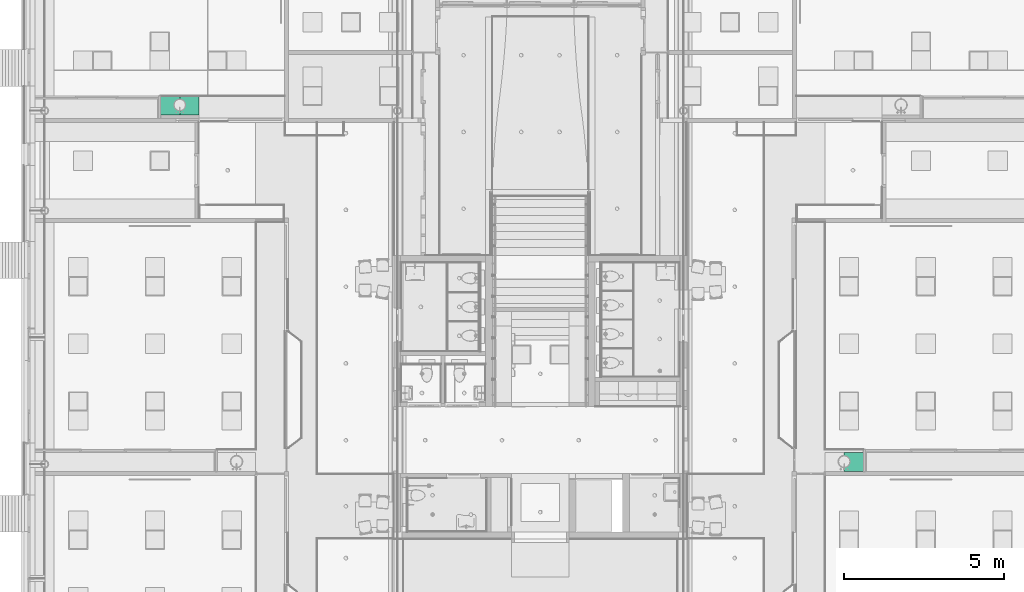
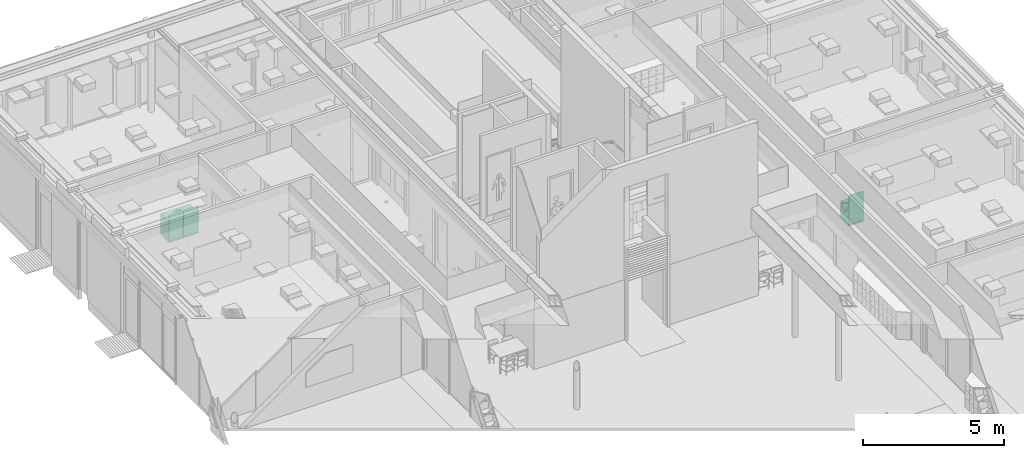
# One storey, part 307 of 347: 3 distribution elements.
"""IFC2X3 building model written with IfcOpenShell, lengths in millimetres."""

from ifc_helpers import new_model, entity, si_unit, converted_unit, derived_unit, money_unit, direction, frame, origin_with_axes, place, context, subcontext, project, spatial, faceted_brep, type_object, element, save


model = new_model("IFC2X3")

# Units and contexts
model_context = context("Model", 3, precision=0.01, world=origin_with_axes(), true_north=direction((0.0, 1.0)))
plan_context = context("Plan", 3, precision=0.01, world=origin_with_axes(), true_north=direction((0.0, 1.0)))
body_context = subcontext(model_context, "Body", "Model", "MODEL_VIEW")
ifc_project = project(units=[si_unit("LENGTHUNIT", "METRE", prefix="MILLI"), si_unit("AREAUNIT", "SQUARE_METRE"), si_unit("VOLUMEUNIT", "CUBIC_METRE"), converted_unit("PLANEANGLEUNIT", "DEGREE", entity("IfcPlaneAngleMeasure", 0.0174532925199), si_unit("PLANEANGLEUNIT", "RADIAN"), dimensions=[0, 0, 0, 0, 0, 0, 0]), money_unit("EUR"), converted_unit("TIMEUNIT", "Year", entity("IfcTimeMeasure", 31556926.0), si_unit("TIMEUNIT", "SECOND"), dimensions=[0, 0, 1, 0, 0, 0, 0]), si_unit("MASSUNIT", "GRAM", prefix="KILO"), si_unit("THERMODYNAMICTEMPERATUREUNIT", "DEGREE_CELSIUS"), si_unit("LUMINOUSINTENSITYUNIT", "LUMEN"), si_unit("ENERGYUNIT", "JOULE", prefix="MEGA"), derived_unit("THERMALCONDUCTANCEUNIT", [(si_unit("POWERUNIT", "WATT"), 1), (si_unit("LENGTHUNIT", "METRE"), -1), (si_unit("THERMODYNAMICTEMPERATUREUNIT", "KELVIN"), -1)]), derived_unit("SPECIFICHEATCAPACITYUNIT", [(si_unit("ENERGYUNIT", "JOULE"), 1), (si_unit("MASSUNIT", "GRAM", prefix="KILO"), -1), (si_unit("THERMODYNAMICTEMPERATUREUNIT", "KELVIN"), -1)]), derived_unit("MASSDENSITYUNIT", [(si_unit("MASSUNIT", "GRAM", prefix="KILO"), 1), (si_unit("VOLUMEUNIT", "CUBIC_METRE"), -1)])], contexts=[model_context, plan_context])

# Site, building, storey
site_placement = place(None, origin_with_axes())
site = spatial("IfcSite", under=ifc_project, at=site_placement, Name="Site", CompositionType="ELEMENT")
building_placement = place(site_placement, origin_with_axes())
building = spatial("IfcBuilding", under=site, at=building_placement, Name="Naam gebouw", CompositionType="ELEMENT")
storey_placement = place(building_placement, origin_with_axes())
storey = spatial("IfcBuildingStorey", under=building, at=storey_placement, Name="begane grond", CompositionType="ELEMENT", Elevation=0.0)

# Distribution elements
distribution_element_type = type_object("IfcDistributionElementType", Name="Onderkast recht 25")
distribution_element_1_placement = place(storey_placement, frame((28800.0, 39187.5, 0.0), z_axis=(0.0, 0.0, 1.0), x_axis=(-1.0, 0.0, 0.0)))
element("IfcDistributionElement", 1, at=distribution_element_1_placement, inside=storey, type_object=distribution_element_type, Name="65 Beveiliging_82 pantryblok", context=body_context, shape_type="Brep", body=[
    faceted_brep([(-127.279220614, -444.012913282, 910.0), (-166.298315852, -385.616710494, 910.0), (-180.0, -316.733692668, 910.0), (-166.298315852, -247.850674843, 910.0), (-127.279220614, -189.454472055, 910.0), (-68.8830178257, -150.435376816, 910.0), (0.0, -136.733692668, 910.0), (0.0, 0.0, 910.0), (-600.0, 0.0, 910.0), (-600.0, -600.0, 910.0), (0.0, -600.0, 910.0), (0.0, -496.733692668, 910.0), (-68.8830178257, -483.03200852, 910.0), (-127.279220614, -444.012913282, 870.0), (-166.298315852, -385.616710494, 870.0), (-180.0, -316.733692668, 870.0), (-166.298315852, -247.850674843, 870.0), (-127.279220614, -189.454472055, 870.0), (-68.8830178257, -150.435376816, 870.0), (0.0, -136.733692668, 870.0), (0.0, 0.0, 870.0), (-600.0, 0.0, 870.0), (-600.0, -600.0, 870.0), (0.0, -600.0, 870.0), (0.0, -496.733692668, 870.0), (-68.8830178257, -483.03200852, 870.0)], [[[0, 1, 2, 3, 4, 5, 6, 7, 8, 9, 10, 11, 12]], [[1, 0, 13, 14]], [[2, 1, 14, 15]], [[3, 2, 15, 16]], [[4, 3, 16, 17]], [[5, 4, 17, 18]], [[6, 5, 18, 19]], [[6, 19, 20, 7]], [[20, 21, 8, 7]], [[21, 22, 9, 8]], [[22, 23, 10, 9]], [[24, 11, 10, 23]], [[12, 11, 24, 25]], [[0, 12, 25, 13]], [[25, 24, 23, 22, 21, 20, 19, 18, 17, 16, 15, 14, 13]]]),
    faceted_brep([(-18.0, -512.0, 852.0), (-18.0, -572.0, 852.0), (-582.0, -572.0, 852.0), (-582.0, -512.0, 852.0), (-18.0, -572.0, 870.0), (-18.0, -512.0, 870.0), (-582.0, -572.0, 870.0), (-582.0, -512.0, 870.0)], [[[0, 1, 2, 3]], [[4, 1, 0, 5]], [[1, 4, 6, 2]], [[3, 2, 6, 7]], [[5, 0, 3, 7]], [[4, 5, 7, 6]]]),
    faceted_brep([(-18.0, -9.0, 68.0), (-582.0, -9.00000000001, 68.0), (-582.0, -9.00000000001, 852.0), (-18.0, -9.0, 852.0), (-582.0, -18.0, 68.0), (-18.0, -18.0, 68.0), (-582.0, -18.0, 852.0), (-18.0, -18.0, 852.0)], [[[0, 1, 2, 3]], [[4, 1, 0, 5]], [[1, 4, 6, 2]], [[3, 2, 6, 7]], [[5, 0, 3, 7]], [[4, 5, 7, 6]]]),
    faceted_brep([(-582.0, -60.0, 852.0), (-582.0, 0.0, 852.0), (-18.0, 0.0, 852.0), (-18.0, -60.0, 852.0), (-582.0, 0.0, 870.0), (-582.0, -60.0, 870.0), (-18.0, 0.0, 870.0), (-18.0, -60.0, 870.0)], [[[0, 1, 2, 3]], [[4, 1, 0, 5]], [[1, 4, 6, 2]], [[3, 2, 6, 7]], [[5, 0, 3, 7]], [[4, 5, 7, 6]]]),
    faceted_brep([(-14.8492424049, -201.884450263, 710.0), (-18.0, -205.990597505, 710.0), (-18.0, -205.990597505, 690.0), (-14.8492424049, -201.884450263, 690.0), (-18.0, -140.314115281, 710.0), (-10.5, -198.547159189, 710.0), (-5.43519994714, -196.449250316, 710.0), (0.0, -195.733692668, 710.0), (0.0, -136.733692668, 710.0), (-18.0, -493.153270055, 710.0), (-18.0, -227.476787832, 710.0), (-18.0, -227.476787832, 690.0), (-18.0, -140.314115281, 870.0), (-18.0, 0.0, 870.0), (-18.0, 0.0, 50.0), (-18.0, -572.0, 50.0), (-18.0, -572.0, 870.0), (-18.0, -493.153270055, 870.0), (-14.8492424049, -231.582935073, 690.0), (-10.5, -234.920226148, 690.0), (-5.43519994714, -237.01813502, 690.0), (0.0, -237.733692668, 690.0), (0.0, -195.733692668, 690.0), (-5.43519994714, -196.449250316, 690.0), (-10.5, -198.547159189, 690.0), (0.0, -496.733692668, 710.0), (0.0, -496.733692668, 870.0), (0.0, -572.0, 870.0), (0.0, -572.0, 50.0), (0.0, 0.0, 50.0), (0.0, 0.0, 870.0), (0.0, -136.733692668, 870.0), (0.0, -237.733692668, 710.0), (-5.43519994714, -237.01813502, 710.0), (-10.5, -234.920226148, 710.0), (-14.8492424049, -231.582935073, 710.0)], [[[0, 1, 2, 3]], [[4, 1, 0, 5, 6, 7, 8]], [[9, 10, 11, 2, 1, 4, 12, 13, 14, 15, 16, 17]], [[2, 11, 18, 19, 20, 21, 22, 23, 24, 3]], [[5, 0, 3, 24]], [[6, 5, 24, 23]], [[7, 6, 23, 22]], [[25, 26, 27, 28, 29, 30, 31, 8, 7, 22, 21, 32]], [[31, 12, 4, 8]], [[10, 9, 25, 32, 33, 34, 35]], [[10, 35, 18, 11]], [[12, 31, 30, 13]], [[29, 14, 13, 30]], [[14, 29, 28, 15]], [[15, 28, 27, 16]], [[26, 17, 16, 27]], [[9, 17, 26, 25]], [[35, 34, 19, 18]], [[34, 33, 20, 19]], [[33, 32, 21, 20]]]),
    faceted_brep([(-600.0, 0.0, 50.0), (-600.0, -572.0, 50.0), (-600.0, -572.0, 870.0), (-600.0, 0.0, 870.0), (-582.0, -572.0, 50.0), (-582.0, 0.0, 50.0), (-582.0, -572.0, 870.0), (-582.0, 0.0, 870.0)], [[[0, 1, 2, 3]], [[4, 1, 0, 5]], [[1, 4, 6, 2]], [[3, 2, 6, 7]], [[5, 0, 3, 7]], [[4, 5, 7, 6]]]),
    faceted_brep([(-600.0, 0.0, 910.0), (0.0, 0.0, 910.0), (0.0, -6.0, 910.0), (-600.0, -6.00000000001, 910.0), (-600.0, 0.0, 1200.0), (0.0, 0.0, 1200.0), (0.0, -6.0, 1200.0), (-600.0, -6.00000000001, 1200.0)], [[[0, 1, 2, 3]], [[4, 5, 1, 0]], [[1, 5, 6, 2]], [[3, 2, 6, 7]], [[0, 3, 7, 4]], [[7, 6, 5, 4]]]),
    faceted_brep([(-96.0, -590.0, 386.0), (-106.0, -590.0, 386.0), (-106.0, -590.0, 396.0), (-96.0, -590.0, 396.0), (-96.0, -600.0, 386.0), (-106.0, -600.0, 386.0), (-106.0, -603.472963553, 386.30384494), (-106.0, -606.840402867, 387.206147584), (-106.0, -610.0, 388.679491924), (-106.0, -612.855752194, 390.679111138), (-106.0, -615.320888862, 393.144247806), (-106.0, -617.320508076, 396.0), (-106.0, -618.793852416, 399.159597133), (-106.0, -619.69615506, 402.527036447), (-106.0, -620.0, 406.0), (-106.0, -620.0, 516.0), (-106.0, -619.69615506, 519.472963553), (-106.0, -618.793852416, 522.840402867), (-106.0, -617.320508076, 526.0), (-106.0, -615.320888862, 528.855752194), (-106.0, -612.855752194, 531.320888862), (-106.0, -610.0, 533.320508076), (-106.0, -606.840402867, 534.793852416), (-106.0, -603.472963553, 535.69615506), (-106.0, -600.0, 536.0), (-106.0, -590.0, 536.0), (-106.0, -590.0, 526.0), (-106.0, -600.0, 526.0), (-106.0, -601.736481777, 525.84807753), (-106.0, -603.420201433, 525.396926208), (-106.0, -605.0, 524.660254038), (-106.0, -606.427876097, 523.660444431), (-106.0, -607.660444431, 522.427876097), (-106.0, -608.660254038, 521.0), (-106.0, -609.396926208, 519.420201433), (-106.0, -609.84807753, 517.736481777), (-106.0, -610.0, 516.0), (-106.0, -610.0, 406.0), (-106.0, -609.84807753, 404.263518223), (-106.0, -609.396926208, 402.579798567), (-106.0, -608.660254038, 401.0), (-106.0, -607.660444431, 399.572123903), (-106.0, -606.427876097, 398.339555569), (-106.0, -605.0, 397.339745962), (-106.0, -603.420201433, 396.603073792), (-106.0, -601.736481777, 396.15192247), (-106.0, -600.0, 396.0), (-96.0, -600.0, 396.0), (-96.0, -601.736481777, 396.15192247), (-96.0, -603.420201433, 396.603073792), (-96.0, -605.0, 397.339745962), (-96.0, -606.427876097, 398.339555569), (-96.0, -607.660444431, 399.572123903), (-96.0, -608.660254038, 401.0), (-96.0, -609.396926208, 402.579798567), (-96.0, -609.84807753, 404.263518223), (-96.0, -610.0, 406.0), (-96.0, -610.0, 516.0), (-96.0, -609.84807753, 517.736481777), (-96.0, -609.396926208, 519.420201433), (-96.0, -608.660254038, 521.0), (-96.0, -607.660444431, 522.427876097), (-96.0, -606.427876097, 523.660444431), (-96.0, -605.0, 524.660254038), (-96.0, -603.420201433, 525.396926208), (-96.0, -601.736481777, 525.84807753), (-96.0, -600.0, 526.0), (-96.0, -590.0, 526.0), (-96.0, -590.0, 536.0), (-96.0, -600.0, 536.0), (-96.0, -603.472963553, 535.69615506), (-96.0, -606.840402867, 534.793852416), (-96.0, -610.0, 533.320508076), (-96.0, -612.855752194, 531.320888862), (-96.0, -615.320888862, 528.855752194), (-96.0, -617.320508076, 526.0), (-96.0, -618.793852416, 522.840402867), (-96.0, -619.69615506, 519.472963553), (-96.0, -620.0, 516.0), (-96.0, -620.0, 406.0), (-96.0, -619.69615506, 402.527036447), (-96.0, -618.793852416, 399.159597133), (-96.0, -617.320508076, 396.0), (-96.0, -615.320888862, 393.144247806), (-96.0, -612.855752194, 390.679111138), (-96.0, -610.0, 388.679491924), (-96.0, -606.840402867, 387.206147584), (-96.0, -603.472963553, 386.30384494)], [[[0, 1, 2, 3]], [[4, 5, 1, 0]], [[1, 5, 6, 7, 8, 9, 10, 11, 12, 13, 14, 15, 16, 17, 18, 19, 20, 21, 22, 23, 24, 25, 26, 27, 28, 29, 30, 31, 32, 33, 34, 35, 36, 37, 38, 39, 40, 41, 42, 43, 44, 45, 46, 2]], [[3, 2, 46, 47]], [[0, 3, 47, 48, 49, 50, 51, 52, 53, 54, 55, 56, 57, 58, 59, 60, 61, 62, 63, 64, 65, 66, 67, 68, 69, 70, 71, 72, 73, 74, 75, 76, 77, 78, 79, 80, 81, 82, 83, 84, 85, 86, 87, 4]], [[87, 6, 5, 4]], [[86, 7, 6, 87]], [[85, 8, 7, 86]], [[84, 9, 8, 85]], [[83, 10, 9, 84]], [[82, 11, 10, 83]], [[81, 12, 11, 82]], [[80, 13, 12, 81]], [[79, 14, 13, 80]], [[78, 15, 14, 79]], [[77, 16, 15, 78]], [[76, 17, 16, 77]], [[75, 18, 17, 76]], [[74, 19, 18, 75]], [[73, 20, 19, 74]], [[72, 21, 20, 73]], [[71, 22, 21, 72]], [[70, 23, 22, 71]], [[69, 24, 23, 70]], [[68, 25, 24, 69]], [[67, 26, 25, 68]], [[66, 27, 26, 67]], [[65, 28, 27, 66]], [[64, 29, 28, 65]], [[63, 30, 29, 64]], [[62, 31, 30, 63]], [[61, 32, 31, 62]], [[60, 33, 32, 61]], [[59, 34, 33, 60]], [[58, 35, 34, 59]], [[57, 36, 35, 58]], [[56, 37, 36, 57]], [[55, 38, 37, 56]], [[54, 39, 38, 55]], [[53, 40, 39, 54]], [[52, 41, 40, 53]], [[51, 42, 41, 52]], [[50, 43, 42, 51]], [[49, 44, 43, 50]], [[48, 45, 44, 49]], [[47, 46, 45, 48]]]),
    faceted_brep([(-1.0, -572.0, 51.0), (-1.0, -590.0, 51.0), (-599.0, -590.0, 51.0), (-599.0, -572.0, 51.0), (-1.0, -572.0, 869.0), (-1.0, -590.0, 869.0), (-599.0, -590.0, 869.0), (-599.0, -572.0, 869.0)], [[[0, 1, 2, 3]], [[4, 5, 1, 0]], [[1, 5, 6, 2]], [[3, 2, 6, 7]], [[0, 3, 7, 4]], [[7, 6, 5, 4]]]),
    faceted_brep([(-18.0, -572.0, 50.0), (-18.0, -572.0, 68.0), (-582.0, -572.0, 68.0), (-582.0, -572.0, 50.0), (-18.0, 0.0, 50.0), (-18.0, 0.0, 68.0), (-582.0, 0.0, 68.0), (-582.0, 0.0, 50.0)], [[[0, 1, 2, 3]], [[4, 5, 1, 0]], [[1, 5, 6, 2]], [[3, 2, 6, 7]], [[0, 3, 7, 4]], [[7, 6, 5, 4]]]),
    faceted_brep([(0.0, -482.0, 0.0), (0.0, -482.0, 50.0), (-600.0, -482.0, 50.0), (-600.0, -482.0, 0.0), (0.0, 0.0, 0.0), (0.0, 0.0, 50.0), (-600.0, 0.0, 50.0), (-600.0, 0.0, 0.0)], [[[0, 1, 2, 3]], [[4, 5, 1, 0]], [[1, 5, 6, 2]], [[3, 2, 6, 7]], [[0, 3, 7, 4]], [[7, 6, 5, 4]]]),
])
distribution_element_2_placement = place(storey_placement, frame((28200.0, 39187.5, 0.0), z_axis=(0.0, 0.0, 1.0), x_axis=(-1.0, 0.0, 0.0)))
element("IfcDistributionElement", 2, at=distribution_element_2_placement, inside=storey, type_object=distribution_element_type, Name="65 Beveiliging_82 pantryblok", context=body_context, shape_type="Brep", body=[
    faceted_brep([(-472.720779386, -444.012913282, 910.0), (-531.116982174, -483.03200852, 910.0), (-600.0, -496.733692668, 910.0), (-600.0, -600.0, 910.0), (0.0, -600.0, 910.0), (0.0, 0.0, 910.0), (-600.0, 0.0, 910.0), (-600.0, -136.733692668, 910.0), (-531.116982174, -150.435376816, 910.0), (-472.720779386, -189.454472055, 910.0), (-433.701684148, -247.850674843, 910.0), (-420.0, -316.733692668, 910.0), (-433.701684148, -385.616710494, 910.0), (-472.720779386, -444.012913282, 870.0), (-531.116982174, -483.03200852, 870.0), (-600.0, -496.733692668, 870.0), (-600.0, -600.0, 870.0), (0.0, -600.0, 870.0), (0.0, 0.0, 870.0), (-600.0, 0.0, 870.0), (-600.0, -136.733692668, 870.0), (-531.116982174, -150.435376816, 870.0), (-472.720779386, -189.454472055, 870.0), (-433.701684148, -247.850674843, 870.0), (-420.0, -316.733692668, 870.0), (-433.701684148, -385.616710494, 870.0)], [[[0, 1, 2, 3, 4, 5, 6, 7, 8, 9, 10, 11, 12]], [[1, 0, 13, 14]], [[2, 1, 14, 15]], [[2, 15, 16, 3]], [[16, 17, 4, 3]], [[17, 18, 5, 4]], [[18, 19, 6, 5]], [[20, 7, 6, 19]], [[8, 7, 20, 21]], [[9, 8, 21, 22]], [[10, 9, 22, 23]], [[11, 10, 23, 24]], [[12, 11, 24, 25]], [[0, 12, 25, 13]], [[21, 20, 19, 18, 17, 16, 15, 14, 13, 25, 24, 23, 22]]]),
    faceted_brep([(-18.0, -512.0, 852.0), (-18.0, -572.0, 852.0), (-582.0, -572.0, 852.0), (-582.0, -512.0, 852.0), (-18.0, -572.0, 870.0), (-18.0, -512.0, 870.0), (-582.0, -572.0, 870.0), (-582.0, -512.0, 870.0)], [[[0, 1, 2, 3]], [[4, 1, 0, 5]], [[1, 4, 6, 2]], [[3, 2, 6, 7]], [[5, 0, 3, 7]], [[4, 5, 7, 6]]]),
    faceted_brep([(-18.0, -9.0, 68.0), (-582.0, -9.0, 68.0), (-582.0, -9.0, 852.0), (-18.0, -9.0, 852.0), (-582.0, -18.0, 68.0), (-18.0, -18.0, 68.0), (-582.0, -18.0, 852.0), (-18.0, -18.0, 852.0)], [[[0, 1, 2, 3]], [[4, 1, 0, 5]], [[1, 4, 6, 2]], [[3, 2, 6, 7]], [[5, 0, 3, 7]], [[4, 5, 7, 6]]]),
    faceted_brep([(-582.0, -60.0, 852.0), (-582.0, 0.0, 852.0), (-18.0, 0.0, 852.0), (-18.0, -60.0, 852.0), (-582.0, 0.0, 870.0), (-582.0, -60.0, 870.0), (-18.0, 0.0, 870.0), (-18.0, -60.0, 870.0)], [[[0, 1, 2, 3]], [[4, 1, 0, 5]], [[1, 4, 6, 2]], [[3, 2, 6, 7]], [[5, 0, 3, 7]], [[4, 5, 7, 6]]]),
    faceted_brep([(0.0, -572.0, 50.0), (0.0, 0.0, 50.0), (0.0, 0.0, 870.0), (0.0, -572.0, 870.0), (-18.0, 0.0, 50.0), (-18.0, -572.0, 50.0), (-18.0, 0.0, 870.0), (-18.0, -572.0, 870.0)], [[[0, 1, 2, 3]], [[4, 1, 0, 5]], [[1, 4, 6, 2]], [[3, 2, 6, 7]], [[5, 0, 3, 7]], [[4, 5, 7, 6]]]),
    faceted_brep([(-594.564800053, -196.449250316, 710.0), (-600.0, -195.733692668, 710.0), (-600.0, -195.733692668, 690.0), (-594.564800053, -196.449250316, 690.0), (-600.0, -136.733692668, 710.0), (-589.5, -198.547159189, 710.0), (-585.150757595, -201.884450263, 710.0), (-582.0, -205.990597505, 710.0), (-582.0, -140.314115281, 710.0), (-600.0, -496.733692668, 710.0), (-600.0, -237.733692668, 710.0), (-600.0, -237.733692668, 690.0), (-600.0, -136.733692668, 870.0), (-600.0, 0.0, 870.0), (-600.0, 0.0, 50.0), (-600.0, -572.0, 50.0), (-600.0, -572.0, 870.0), (-600.0, -496.733692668, 870.0), (-594.564800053, -237.01813502, 690.0), (-589.5, -234.920226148, 690.0), (-585.150757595, -231.582935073, 690.0), (-582.0, -227.476787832, 690.0), (-582.0, -205.990597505, 690.0), (-585.150757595, -201.884450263, 690.0), (-589.5, -198.547159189, 690.0), (-582.0, -493.153270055, 710.0), (-582.0, -493.153270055, 870.0), (-582.0, -572.0, 870.0), (-582.0, -572.0, 50.0), (-582.0, 0.0, 50.0), (-582.0, 0.0, 870.0), (-582.0, -140.314115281, 870.0), (-582.0, -227.476787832, 710.0), (-585.150757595, -231.582935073, 710.0), (-589.5, -234.920226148, 710.0), (-594.564800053, -237.01813502, 710.0)], [[[0, 1, 2, 3]], [[4, 1, 0, 5, 6, 7, 8]], [[9, 10, 11, 2, 1, 4, 12, 13, 14, 15, 16, 17]], [[2, 11, 18, 19, 20, 21, 22, 23, 24, 3]], [[5, 0, 3, 24]], [[6, 5, 24, 23]], [[7, 6, 23, 22]], [[25, 26, 27, 28, 29, 30, 31, 8, 7, 22, 21, 32]], [[31, 12, 4, 8]], [[10, 9, 25, 32, 33, 34, 35]], [[10, 35, 18, 11]], [[12, 31, 30, 13]], [[29, 14, 13, 30]], [[28, 15, 14, 29]], [[15, 28, 27, 16]], [[26, 17, 16, 27]], [[17, 26, 25, 9]], [[35, 34, 19, 18]], [[34, 33, 20, 19]], [[33, 32, 21, 20]]]),
    faceted_brep([(-600.0, 0.0, 910.0), (0.0, 0.0, 910.0), (0.0, -6.0, 910.0), (-600.0, -6.0, 910.0), (-600.0, 0.0, 1200.0), (0.0, 0.0, 1200.0), (0.0, -6.0, 1200.0), (-600.0, -6.0, 1200.0)], [[[0, 1, 2, 3]], [[4, 5, 1, 0]], [[1, 5, 6, 2]], [[3, 2, 6, 7]], [[0, 3, 7, 4]], [[7, 6, 5, 4]]]),
    faceted_brep([(-496.0, -590.0, 386.0), (-506.0, -590.0, 386.0), (-506.0, -590.0, 396.0), (-496.0, -590.0, 396.0), (-496.0, -600.0, 386.0), (-506.0, -600.0, 386.0), (-506.0, -603.472963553, 386.30384494), (-506.0, -606.840402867, 387.206147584), (-506.0, -610.0, 388.679491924), (-506.0, -612.855752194, 390.679111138), (-506.0, -615.320888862, 393.144247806), (-506.0, -617.320508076, 396.0), (-506.0, -618.793852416, 399.159597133), (-506.0, -619.69615506, 402.527036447), (-506.0, -620.0, 406.0), (-506.0, -620.0, 516.0), (-506.0, -619.69615506, 519.472963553), (-506.0, -618.793852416, 522.840402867), (-506.0, -617.320508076, 526.0), (-506.0, -615.320888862, 528.855752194), (-506.0, -612.855752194, 531.320888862), (-506.0, -610.0, 533.320508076), (-506.0, -606.840402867, 534.793852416), (-506.0, -603.472963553, 535.69615506), (-506.0, -600.0, 536.0), (-506.0, -590.0, 536.0), (-506.0, -590.0, 526.0), (-506.0, -600.0, 526.0), (-506.0, -601.736481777, 525.84807753), (-506.0, -603.420201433, 525.396926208), (-506.0, -605.0, 524.660254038), (-506.0, -606.427876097, 523.660444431), (-506.0, -607.660444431, 522.427876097), (-506.0, -608.660254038, 521.0), (-506.0, -609.396926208, 519.420201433), (-506.0, -609.84807753, 517.736481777), (-506.0, -610.0, 516.0), (-506.0, -610.0, 406.0), (-506.0, -609.84807753, 404.263518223), (-506.0, -609.396926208, 402.579798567), (-506.0, -608.660254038, 401.0), (-506.0, -607.660444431, 399.572123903), (-506.0, -606.427876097, 398.339555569), (-506.0, -605.0, 397.339745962), (-506.0, -603.420201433, 396.603073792), (-506.0, -601.736481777, 396.15192247), (-506.0, -600.0, 396.0), (-496.0, -600.0, 396.0), (-496.0, -601.736481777, 396.15192247), (-496.0, -603.420201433, 396.603073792), (-496.0, -605.0, 397.339745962), (-496.0, -606.427876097, 398.339555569), (-496.0, -607.660444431, 399.572123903), (-496.0, -608.660254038, 401.0), (-496.0, -609.396926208, 402.579798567), (-496.0, -609.84807753, 404.263518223), (-496.0, -610.0, 406.0), (-496.0, -610.0, 516.0), (-496.0, -609.84807753, 517.736481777), (-496.0, -609.396926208, 519.420201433), (-496.0, -608.660254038, 521.0), (-496.0, -607.660444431, 522.427876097), (-496.0, -606.427876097, 523.660444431), (-496.0, -605.0, 524.660254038), (-496.0, -603.420201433, 525.396926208), (-496.0, -601.736481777, 525.84807753), (-496.0, -600.0, 526.0), (-496.0, -590.0, 526.0), (-496.0, -590.0, 536.0), (-496.0, -600.0, 536.0), (-496.0, -603.472963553, 535.69615506), (-496.0, -606.840402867, 534.793852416), (-496.0, -610.0, 533.320508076), (-496.0, -612.855752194, 531.320888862), (-496.0, -615.320888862, 528.855752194), (-496.0, -617.320508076, 526.0), (-496.0, -618.793852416, 522.840402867), (-496.0, -619.69615506, 519.472963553), (-496.0, -620.0, 516.0), (-496.0, -620.0, 406.0), (-496.0, -619.69615506, 402.527036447), (-496.0, -618.793852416, 399.159597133), (-496.0, -617.320508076, 396.0), (-496.0, -615.320888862, 393.144247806), (-496.0, -612.855752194, 390.679111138), (-496.0, -610.0, 388.679491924), (-496.0, -606.840402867, 387.206147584), (-496.0, -603.472963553, 386.30384494)], [[[0, 1, 2, 3]], [[4, 5, 1, 0]], [[1, 5, 6, 7, 8, 9, 10, 11, 12, 13, 14, 15, 16, 17, 18, 19, 20, 21, 22, 23, 24, 25, 26, 27, 28, 29, 30, 31, 32, 33, 34, 35, 36, 37, 38, 39, 40, 41, 42, 43, 44, 45, 46, 2]], [[3, 2, 46, 47]], [[0, 3, 47, 48, 49, 50, 51, 52, 53, 54, 55, 56, 57, 58, 59, 60, 61, 62, 63, 64, 65, 66, 67, 68, 69, 70, 71, 72, 73, 74, 75, 76, 77, 78, 79, 80, 81, 82, 83, 84, 85, 86, 87, 4]], [[87, 6, 5, 4]], [[86, 7, 6, 87]], [[85, 8, 7, 86]], [[84, 9, 8, 85]], [[83, 10, 9, 84]], [[82, 11, 10, 83]], [[81, 12, 11, 82]], [[80, 13, 12, 81]], [[79, 14, 13, 80]], [[78, 15, 14, 79]], [[77, 16, 15, 78]], [[76, 17, 16, 77]], [[75, 18, 17, 76]], [[74, 19, 18, 75]], [[73, 20, 19, 74]], [[72, 21, 20, 73]], [[71, 22, 21, 72]], [[70, 23, 22, 71]], [[69, 24, 23, 70]], [[68, 25, 24, 69]], [[67, 26, 25, 68]], [[66, 27, 26, 67]], [[65, 28, 27, 66]], [[64, 29, 28, 65]], [[63, 30, 29, 64]], [[62, 31, 30, 63]], [[61, 32, 31, 62]], [[60, 33, 32, 61]], [[59, 34, 33, 60]], [[58, 35, 34, 59]], [[57, 36, 35, 58]], [[56, 37, 36, 57]], [[55, 38, 37, 56]], [[54, 39, 38, 55]], [[53, 40, 39, 54]], [[52, 41, 40, 53]], [[51, 42, 41, 52]], [[50, 43, 42, 51]], [[49, 44, 43, 50]], [[48, 45, 44, 49]], [[47, 46, 45, 48]]]),
    faceted_brep([(-1.0, -572.0, 51.0), (-1.0, -590.0, 51.0), (-599.0, -590.0, 51.0), (-599.0, -572.0, 51.0), (-1.0, -572.0, 869.0), (-1.0, -590.0, 869.0), (-599.0, -590.0, 869.0), (-599.0, -572.0, 869.0)], [[[0, 1, 2, 3]], [[4, 5, 1, 0]], [[1, 5, 6, 2]], [[3, 2, 6, 7]], [[0, 3, 7, 4]], [[7, 6, 5, 4]]]),
    faceted_brep([(-18.0, -572.0, 50.0), (-18.0, -572.0, 68.0), (-582.0, -572.0, 68.0), (-582.0, -572.0, 50.0), (-18.0, 0.0, 50.0), (-18.0, 0.0, 68.0), (-582.0, 0.0, 68.0), (-582.0, 0.0, 50.0)], [[[0, 1, 2, 3]], [[4, 5, 1, 0]], [[1, 5, 6, 2]], [[3, 2, 6, 7]], [[0, 3, 7, 4]], [[7, 6, 5, 4]]]),
    faceted_brep([(0.0, -482.0, 0.0), (0.0, -482.0, 50.0), (-600.0, -482.0, 50.0), (-600.0, -482.0, 0.0), (0.0, 0.0, 0.0), (0.0, 0.0, 50.0), (-600.0, 0.0, 50.0), (-600.0, 0.0, 0.0)], [[[0, 1, 2, 3]], [[4, 5, 1, 0]], [[1, 5, 6, 2]], [[3, 2, 6, 7]], [[0, 3, 7, 4]], [[7, 6, 5, 4]]]),
])
distribution_element_3_placement = place(storey_placement, frame((49575.0, 28037.5, 0.0), z_axis=(0.0, 0.0, 1.0), x_axis=(-1.0, 0.0, 0.0)))
element("IfcDistributionElement", 3, at=distribution_element_3_placement, inside=storey, type_object=distribution_element_type, Name="65 Beveiliging_82 pantryblok", context=body_context, shape_type="Brep", body=[
    faceted_brep([(-127.279220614, -444.012913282, 720.0), (-166.298315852, -385.616710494, 720.0), (-180.0, -316.733692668, 720.0), (-166.298315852, -247.850674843, 720.0), (-127.279220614, -189.454472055, 720.0), (-68.8830178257, -150.435376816, 720.0), (0.0, -136.733692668, 720.0), (0.0, 0.0, 720.0), (-600.0, 0.0, 720.0), (-600.0, -600.0, 720.0), (0.0, -600.0, 720.0), (0.0, -496.733692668, 720.0), (-68.8830178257, -483.03200852, 720.0), (-127.279220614, -444.012913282, 680.0), (-166.298315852, -385.616710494, 680.0), (-180.0, -316.733692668, 680.0), (-166.298315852, -247.850674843, 680.0), (-127.279220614, -189.454472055, 680.0), (-68.8830178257, -150.435376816, 680.0), (0.0, -136.733692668, 680.0), (0.0, 0.0, 680.0), (-600.0, 0.0, 680.0), (-600.0, -600.0, 680.0), (0.0, -600.0, 680.0), (0.0, -496.733692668, 680.0), (-68.8830178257, -483.03200852, 680.0)], [[[0, 1, 2, 3, 4, 5, 6, 7, 8, 9, 10, 11, 12]], [[1, 0, 13, 14]], [[2, 1, 14, 15]], [[3, 2, 15, 16]], [[4, 3, 16, 17]], [[5, 4, 17, 18]], [[6, 5, 18, 19]], [[6, 19, 20, 7]], [[20, 21, 8, 7]], [[21, 22, 9, 8]], [[22, 23, 10, 9]], [[24, 11, 10, 23]], [[12, 11, 24, 25]], [[0, 12, 25, 13]], [[25, 24, 23, 22, 21, 20, 19, 18, 17, 16, 15, 14, 13]]]),
    faceted_brep([(-18.0, -512.0, 662.0), (-18.0, -572.0, 662.0), (-582.0, -572.0, 662.0), (-582.0, -512.0, 662.0), (-18.0, -572.0, 680.0), (-18.0, -512.0, 680.0), (-582.0, -572.0, 680.0), (-582.0, -512.0, 680.0)], [[[0, 1, 2, 3]], [[4, 1, 0, 5]], [[1, 4, 6, 2]], [[3, 2, 6, 7]], [[5, 0, 3, 7]], [[4, 5, 7, 6]]]),
    faceted_brep([(-18.0, -9.0, 68.0), (-582.0, -9.0, 68.0), (-582.0, -9.0, 662.0), (-18.0, -9.0, 662.0), (-582.0, -18.0, 68.0), (-18.0, -18.0, 68.0), (-582.0, -18.0, 662.0), (-18.0, -18.0, 662.0)], [[[0, 1, 2, 3]], [[4, 1, 0, 5]], [[1, 4, 6, 2]], [[3, 2, 6, 7]], [[5, 0, 3, 7]], [[4, 5, 7, 6]]]),
    faceted_brep([(-582.0, -60.0, 662.0), (-582.0, 0.0, 662.0), (-18.0, 0.0, 662.0), (-18.0, -60.0, 662.0), (-582.0, 0.0, 680.0), (-582.0, -60.0, 680.0), (-18.0, 0.0, 680.0), (-18.0, -60.0, 680.0)], [[[0, 1, 2, 3]], [[4, 1, 0, 5]], [[1, 4, 6, 2]], [[3, 2, 6, 7]], [[5, 0, 3, 7]], [[4, 5, 7, 6]]]),
    faceted_brep([(-14.8492424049, -201.884450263, 520.0), (-18.0, -205.990597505, 520.0), (-18.0, -205.990597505, 500.0), (-14.8492424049, -201.884450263, 500.0), (-18.0, -140.314115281, 520.0), (-10.5, -198.547159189, 520.0), (-5.43519994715, -196.449250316, 520.0), (0.0, -195.733692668, 520.0), (0.0, -136.733692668, 520.0), (-18.0, -493.153270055, 520.0), (-18.0, -227.476787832, 520.0), (-18.0, -227.476787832, 500.0), (-18.0, -140.314115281, 680.0), (-18.0, 0.0, 680.0), (-18.0, 0.0, 50.0), (-18.0, -572.0, 50.0), (-18.0, -572.0, 680.0), (-18.0, -493.153270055, 680.0), (-14.8492424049, -231.582935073, 500.0), (-10.5, -234.920226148, 500.0), (-5.43519994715, -237.01813502, 500.0), (0.0, -237.733692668, 500.0), (0.0, -195.733692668, 500.0), (-5.43519994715, -196.449250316, 500.0), (-10.5, -198.547159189, 500.0), (0.0, -496.733692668, 520.0), (0.0, -496.733692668, 680.0), (0.0, -572.0, 680.0), (0.0, -572.0, 50.0), (0.0, 0.0, 50.0), (0.0, 0.0, 680.0), (0.0, -136.733692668, 680.0), (0.0, -237.733692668, 520.0), (-5.43519994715, -237.01813502, 520.0), (-10.5, -234.920226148, 520.0), (-14.8492424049, -231.582935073, 520.0)], [[[0, 1, 2, 3]], [[4, 1, 0, 5, 6, 7, 8]], [[9, 10, 11, 2, 1, 4, 12, 13, 14, 15, 16, 17]], [[2, 11, 18, 19, 20, 21, 22, 23, 24, 3]], [[5, 0, 3, 24]], [[6, 5, 24, 23]], [[7, 6, 23, 22]], [[25, 26, 27, 28, 29, 30, 31, 8, 7, 22, 21, 32]], [[31, 12, 4, 8]], [[10, 9, 25, 32, 33, 34, 35]], [[10, 35, 18, 11]], [[12, 31, 30, 13]], [[29, 14, 13, 30]], [[14, 29, 28, 15]], [[15, 28, 27, 16]], [[26, 17, 16, 27]], [[9, 17, 26, 25]], [[35, 34, 19, 18]], [[34, 33, 20, 19]], [[33, 32, 21, 20]]]),
    faceted_brep([(-600.0, 0.0, 50.0), (-600.0, -572.0, 50.0), (-600.0, -572.0, 680.0), (-600.0, 0.0, 680.0), (-582.0, -572.0, 50.0), (-582.0, 0.0, 50.0), (-582.0, -572.0, 680.0), (-582.0, 0.0, 680.0)], [[[0, 1, 2, 3]], [[4, 1, 0, 5]], [[1, 4, 6, 2]], [[3, 2, 6, 7]], [[5, 0, 3, 7]], [[4, 5, 7, 6]]]),
    faceted_brep([(-600.0, 0.0, 720.0), (0.0, 0.0, 720.0), (0.0, -6.0, 720.0), (-600.0, -6.0, 720.0), (-600.0, 0.0, 1320.0), (0.0, 0.0, 1320.0), (0.0, -6.0, 1320.0), (-600.0, -6.0, 1320.0)], [[[0, 1, 2, 3]], [[4, 5, 1, 0]], [[1, 5, 6, 2]], [[3, 2, 6, 7]], [[0, 3, 7, 4]], [[7, 6, 5, 4]]]),
    faceted_brep([(-146.0, -590.0, 291.0), (-156.0, -590.0, 291.0), (-156.0, -590.0, 301.0), (-146.0, -590.0, 301.0), (-146.0, -600.0, 291.0), (-156.0, -600.0, 291.0), (-156.0, -603.472963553, 291.30384494), (-156.0, -606.840402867, 292.206147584), (-156.0, -610.0, 293.679491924), (-156.0, -612.855752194, 295.679111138), (-156.0, -615.320888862, 298.144247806), (-156.0, -617.320508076, 301.0), (-156.0, -618.793852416, 304.159597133), (-156.0, -619.69615506, 307.527036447), (-156.0, -620.0, 311.0), (-156.0, -620.0, 421.0), (-156.0, -619.69615506, 424.472963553), (-156.0, -618.793852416, 427.840402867), (-156.0, -617.320508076, 431.0), (-156.0, -615.320888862, 433.855752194), (-156.0, -612.855752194, 436.320888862), (-156.0, -610.0, 438.320508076), (-156.0, -606.840402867, 439.793852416), (-156.0, -603.472963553, 440.69615506), (-156.0, -600.0, 441.0), (-156.0, -590.0, 441.0), (-156.0, -590.0, 431.0), (-156.0, -600.0, 431.0), (-156.0, -601.736481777, 430.84807753), (-156.0, -603.420201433, 430.396926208), (-156.0, -605.0, 429.660254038), (-156.0, -606.427876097, 428.660444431), (-156.0, -607.660444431, 427.427876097), (-156.0, -608.660254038, 426.0), (-156.0, -609.396926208, 424.420201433), (-156.0, -609.84807753, 422.736481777), (-156.0, -610.0, 421.0), (-156.0, -610.0, 311.0), (-156.0, -609.84807753, 309.263518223), (-156.0, -609.396926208, 307.579798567), (-156.0, -608.660254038, 306.0), (-156.0, -607.660444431, 304.572123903), (-156.0, -606.427876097, 303.339555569), (-156.0, -605.0, 302.339745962), (-156.0, -603.420201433, 301.603073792), (-156.0, -601.736481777, 301.15192247), (-156.0, -600.0, 301.0), (-146.0, -600.0, 301.0), (-146.0, -601.736481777, 301.15192247), (-146.0, -603.420201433, 301.603073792), (-146.0, -605.0, 302.339745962), (-146.0, -606.427876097, 303.339555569), (-146.0, -607.660444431, 304.572123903), (-146.0, -608.660254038, 306.0), (-146.0, -609.396926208, 307.579798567), (-146.0, -609.84807753, 309.263518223), (-146.0, -610.0, 311.0), (-146.0, -610.0, 421.0), (-146.0, -609.84807753, 422.736481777), (-146.0, -609.396926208, 424.420201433), (-146.0, -608.660254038, 426.0), (-146.0, -607.660444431, 427.427876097), (-146.0, -606.427876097, 428.660444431), (-146.0, -605.0, 429.660254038), (-146.0, -603.420201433, 430.396926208), (-146.0, -601.736481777, 430.84807753), (-146.0, -600.0, 431.0), (-146.0, -590.0, 431.0), (-146.0, -590.0, 441.0), (-146.0, -600.0, 441.0), (-146.0, -603.472963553, 440.69615506), (-146.0, -606.840402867, 439.793852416), (-146.0, -610.0, 438.320508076), (-146.0, -612.855752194, 436.320888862), (-146.0, -615.320888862, 433.855752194), (-146.0, -617.320508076, 431.0), (-146.0, -618.793852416, 427.840402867), (-146.0, -619.69615506, 424.472963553), (-146.0, -620.0, 421.0), (-146.0, -620.0, 311.0), (-146.0, -619.69615506, 307.527036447), (-146.0, -618.793852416, 304.159597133), (-146.0, -617.320508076, 301.0), (-146.0, -615.320888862, 298.144247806), (-146.0, -612.855752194, 295.679111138), (-146.0, -610.0, 293.679491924), (-146.0, -606.840402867, 292.206147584), (-146.0, -603.472963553, 291.30384494)], [[[0, 1, 2, 3]], [[4, 5, 1, 0]], [[1, 5, 6, 7, 8, 9, 10, 11, 12, 13, 14, 15, 16, 17, 18, 19, 20, 21, 22, 23, 24, 25, 26, 27, 28, 29, 30, 31, 32, 33, 34, 35, 36, 37, 38, 39, 40, 41, 42, 43, 44, 45, 46, 2]], [[3, 2, 46, 47]], [[0, 3, 47, 48, 49, 50, 51, 52, 53, 54, 55, 56, 57, 58, 59, 60, 61, 62, 63, 64, 65, 66, 67, 68, 69, 70, 71, 72, 73, 74, 75, 76, 77, 78, 79, 80, 81, 82, 83, 84, 85, 86, 87, 4]], [[87, 6, 5, 4]], [[86, 7, 6, 87]], [[85, 8, 7, 86]], [[84, 9, 8, 85]], [[83, 10, 9, 84]], [[82, 11, 10, 83]], [[81, 12, 11, 82]], [[80, 13, 12, 81]], [[79, 14, 13, 80]], [[78, 15, 14, 79]], [[77, 16, 15, 78]], [[76, 17, 16, 77]], [[75, 18, 17, 76]], [[74, 19, 18, 75]], [[73, 20, 19, 74]], [[72, 21, 20, 73]], [[71, 22, 21, 72]], [[70, 23, 22, 71]], [[69, 24, 23, 70]], [[68, 25, 24, 69]], [[67, 26, 25, 68]], [[66, 27, 26, 67]], [[65, 28, 27, 66]], [[64, 29, 28, 65]], [[63, 30, 29, 64]], [[62, 31, 30, 63]], [[61, 32, 31, 62]], [[60, 33, 32, 61]], [[59, 34, 33, 60]], [[58, 35, 34, 59]], [[57, 36, 35, 58]], [[56, 37, 36, 57]], [[55, 38, 37, 56]], [[54, 39, 38, 55]], [[53, 40, 39, 54]], [[52, 41, 40, 53]], [[51, 42, 41, 52]], [[50, 43, 42, 51]], [[49, 44, 43, 50]], [[48, 45, 44, 49]], [[47, 46, 45, 48]]]),
    faceted_brep([(-0.999999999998, -572.0, 51.0), (-0.999999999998, -590.0, 51.0), (-599.0, -590.0, 51.0), (-599.0, -572.0, 51.0), (-0.999999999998, -572.0, 679.0), (-0.999999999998, -590.0, 679.0), (-599.0, -590.0, 679.0), (-599.0, -572.0, 679.0)], [[[0, 1, 2, 3]], [[4, 5, 1, 0]], [[1, 5, 6, 2]], [[3, 2, 6, 7]], [[0, 3, 7, 4]], [[7, 6, 5, 4]]]),
    faceted_brep([(-18.0, -572.0, 50.0), (-18.0, -572.0, 68.0), (-582.0, -572.0, 68.0), (-582.0, -572.0, 50.0), (-18.0, 0.0, 50.0), (-18.0, 0.0, 68.0), (-582.0, 0.0, 68.0), (-582.0, 0.0, 50.0)], [[[0, 1, 2, 3]], [[4, 5, 1, 0]], [[1, 5, 6, 2]], [[3, 2, 6, 7]], [[0, 3, 7, 4]], [[7, 6, 5, 4]]]),
    faceted_brep([(0.0, -482.0, 0.0), (0.0, -482.0, 50.0), (-600.0, -482.0, 50.0), (-600.0, -482.0, 0.0), (0.0, 0.0, 0.0), (0.0, 0.0, 50.0), (-600.0, 0.0, 50.0), (-600.0, 0.0, 0.0)], [[[0, 1, 2, 3]], [[4, 5, 1, 0]], [[1, 5, 6, 2]], [[3, 2, 6, 7]], [[0, 3, 7, 4]], [[7, 6, 5, 4]]]),
])

save(model, "model.ifc")
